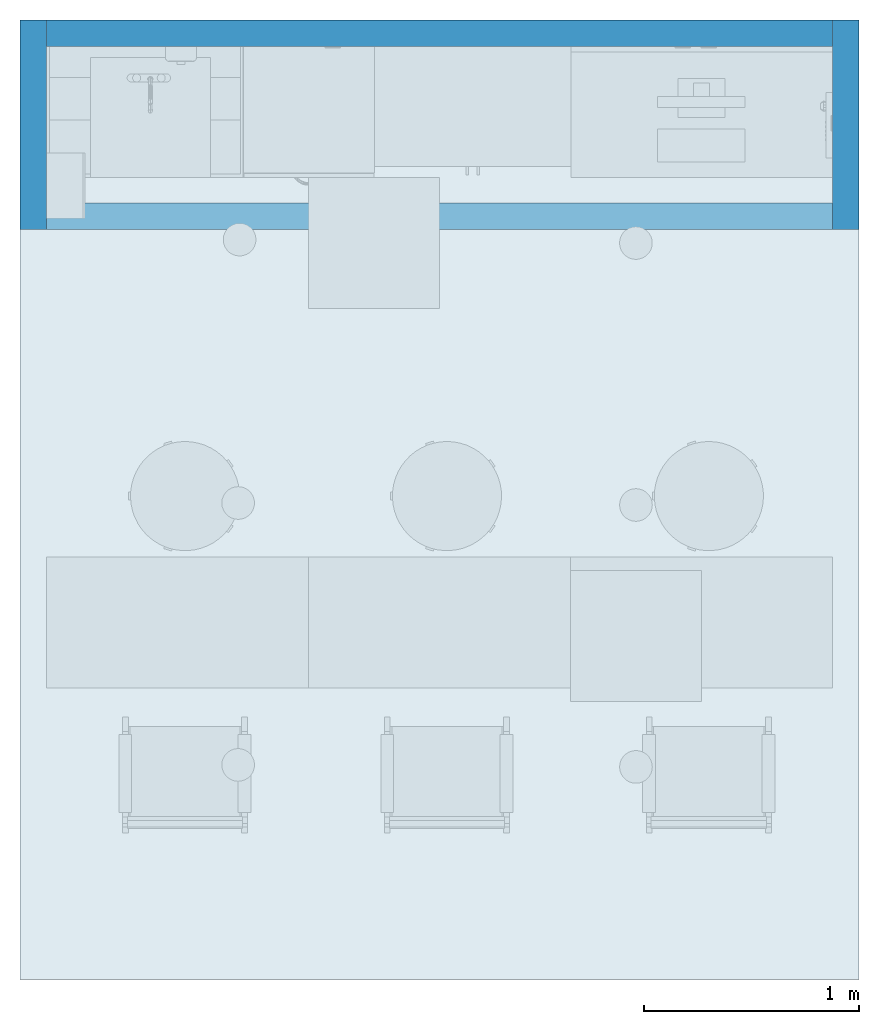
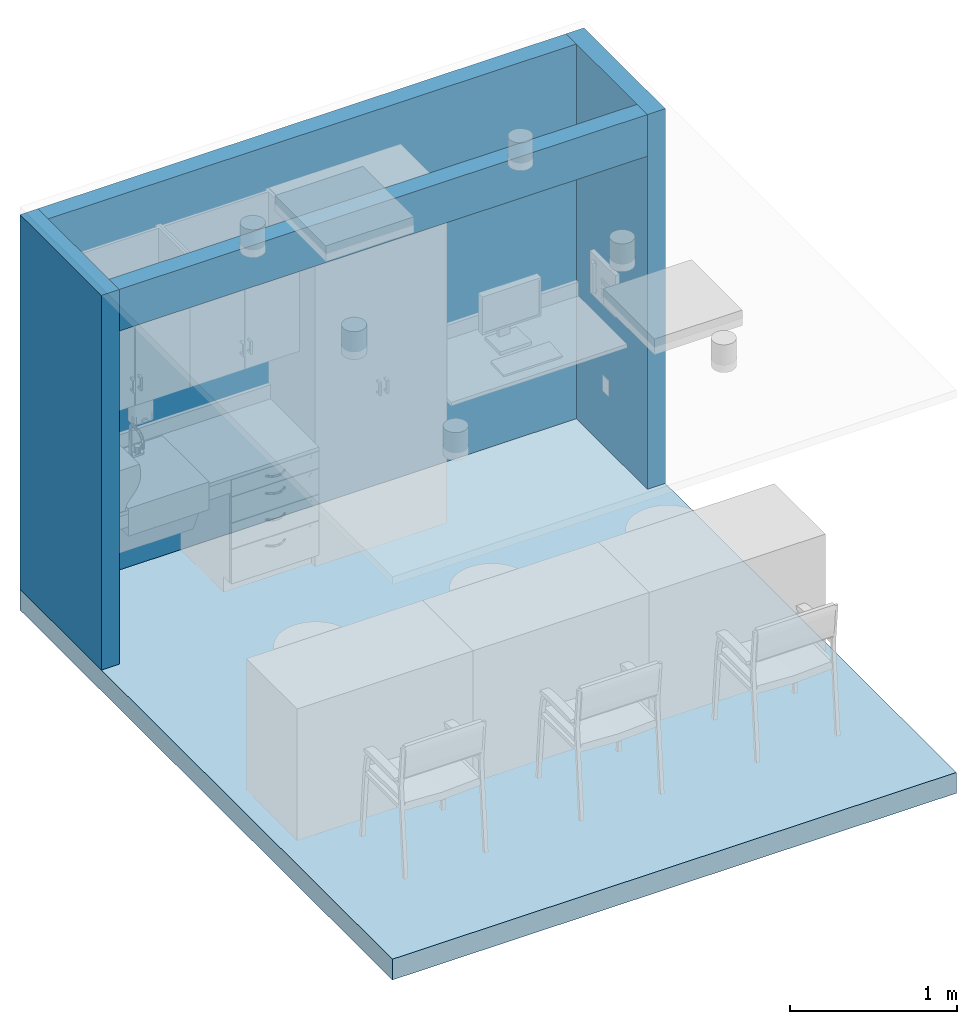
# One storey, part 1 of 8: 4 walls, 1 slab.
"""IFC2X3 building model written with IfcOpenShell, lengths in feet."""

from ifc_helpers import new_model, entity, si_unit, converted_unit, derived_unit, direction, frame, frame_2d, origin, place, context, subcontext, project, spatial, rectangle, extrude, material, layer, layer_set, layer_usage, type_object, element, save


model = new_model("IFC2X3")

# Units and contexts
model_context = context("Model", 3, precision=0.0001, world=origin(), true_north=direction((6.12303176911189e-17, 1.0)))
body_context = subcontext(model_context, "Body", "Model", "MODEL_VIEW")
ifc_project = project(units=[converted_unit("LENGTHUNIT", "FOOT", entity("IfcRatioMeasure", 0.3048), si_unit("LENGTHUNIT", "METRE"), dimensions=[1, 0, 0, 0, 0, 0, 0]), converted_unit("AREAUNIT", "SQUARE FOOT", entity("IfcRatioMeasure", 0.09290304), si_unit("AREAUNIT", "SQUARE_METRE"), dimensions=[2, 0, 0, 0, 0, 0, 0]), converted_unit("VOLUMEUNIT", "CUBIC FOOT", entity("IfcRatioMeasure", 0.028316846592), si_unit("VOLUMEUNIT", "CUBIC_METRE"), dimensions=[3, 0, 0, 0, 0, 0, 0]), converted_unit("PLANEANGLEUNIT", "DEGREE", entity("IfcRatioMeasure", 0.0174532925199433), si_unit("PLANEANGLEUNIT", "RADIAN"), dimensions=[0, 0, 0, 0, 0, 0, 0]), si_unit("MASSUNIT", "GRAM", prefix="KILO"), derived_unit("MASSDENSITYUNIT", [(si_unit("MASSUNIT", "GRAM", prefix="KILO"), 1), (si_unit("LENGTHUNIT", "METRE"), -3)]), si_unit("TIMEUNIT", "SECOND"), si_unit("FREQUENCYUNIT", "HERTZ"), si_unit("THERMODYNAMICTEMPERATUREUNIT", "DEGREE_CELSIUS"), derived_unit("THERMALTRANSMITTANCEUNIT", [(si_unit("MASSUNIT", "GRAM", prefix="KILO"), 1), (si_unit("THERMODYNAMICTEMPERATUREUNIT", "KELVIN"), -1), (si_unit("TIMEUNIT", "SECOND"), -3)]), derived_unit("VOLUMETRICFLOWRATEUNIT", [(si_unit("LENGTHUNIT", "METRE"), 3), (si_unit("TIMEUNIT", "SECOND"), -1)]), si_unit("ELECTRICCURRENTUNIT", "AMPERE"), si_unit("ELECTRICVOLTAGEUNIT", "VOLT"), si_unit("POWERUNIT", "WATT"), si_unit("FORCEUNIT", "NEWTON"), si_unit("ILLUMINANCEUNIT", "LUX"), si_unit("LUMINOUSFLUXUNIT", "LUMEN"), si_unit("LUMINOUSINTENSITYUNIT", "CANDELA"), derived_unit("USERDEFINED", [(si_unit("MASSUNIT", "GRAM", prefix="KILO"), -1), (si_unit("LENGTHUNIT", "METRE"), -2), (si_unit("TIMEUNIT", "SECOND"), 3), (si_unit("LUMINOUSFLUXUNIT", "LUMEN"), 1)]), derived_unit("LINEARVELOCITYUNIT", [(si_unit("LENGTHUNIT", "METRE"), 1), (si_unit("TIMEUNIT", "SECOND"), -1)]), si_unit("PRESSUREUNIT", "PASCAL"), derived_unit("USERDEFINED", [(si_unit("LENGTHUNIT", "METRE"), -2), (si_unit("MASSUNIT", "GRAM", prefix="KILO"), 1), (si_unit("TIMEUNIT", "SECOND"), -2)])], contexts=[model_context])

# Site, building, storey
site_placement = place(None, origin())
site = spatial("IfcSite", under=ifc_project, at=site_placement, Name="Default", CompositionType="ELEMENT")
building_placement = place(site_placement, origin())
building = spatial("IfcBuilding", under=site, at=building_placement, Name="EYE CLINIC:  OPTHALMOLOGY AND OPTOMETRY SERVICES (Ch. 233)", CompositionType="ELEMENT")
storey_placement = place(building_placement, origin())
storey = spatial("IfcBuildingStorey", under=building, at=storey_placement, Name="DATUM", CompositionType="ELEMENT", Elevation=0.0)

# Slab
ifc_material_1 = material(Name="Default Floor")
ifc_layer_1 = layer(ifc_material_1, 0.5)
ifc_layer_set_1 = layer_set([ifc_layer_1], Name="Floor:Generic - 6\"")
ifc_layer_usage_1 = layer_usage(ifc_layer_set_1, "AXIS3", "POSITIVE", 0.0)
slab_placement = place(storey_placement, origin())
element("IfcSlab", 1, at=slab_placement, inside=storey, material=ifc_layer_usage_1, Name="Floor:Generic - 6\"", ObjectType="Floor:Generic - 6\"", PredefinedType="FLOOR", context=body_context, shape_type="SweptSolid", body=[
    extrude(rectangle(XDim=14.65625, YDim=12.8124999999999, at=frame_2d((0.0, -2.8421709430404e-14), x_axis=(1.0, 0.0))), frame((385.563539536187, 4.80741126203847, 0.0), z_axis=(0.0, 0.0, -1.0), x_axis=(0.0, 1.0, 0.0)), (0.0, 0.0, 1.0), 0.5),
])

# Walls
ifc_material_2 = material(Name="Default Wall")
ifc_layer_2 = layer(ifc_material_2, 0.40625)
ifc_layer_set_2 = layer_set([ifc_layer_2], Name="Basic Wall:Interior - 4 7/8\"")
ifc_layer_usage_2 = layer_usage(ifc_layer_set_2, "AXIS2", "NEGATIVE", 0.203125)
wall_type_1 = type_object("IfcWallType", Name="Basic Wall:Interior - 4 7/8\"", PredefinedType="STANDARD", material=ifc_layer_set_2)
wall_1_placement = place(storey_placement, frame((391.766664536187, 12.1355362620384, 0.0), z_axis=(0.0, 0.0, 1.0), x_axis=(0.0, -1.0, 0.0)))
element("IfcWallStandardCase", 2, at=wall_1_placement, inside=storey, type_object=wall_type_1, material=ifc_layer_usage_2, Name="Basic Wall:Interior - 4 7/8\"", ObjectType="Basic Wall:Interior - 4 7/8\"", context=body_context, shape_type="SweptSolid", body=[
    extrude(rectangle(XDim=3.20312500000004, YDim=0.40625, at=frame_2d((1.60156250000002, 2.56739074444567e-15), x_axis=(-1.0, 0.0))), origin(), (0.0, 0.0, 1.0), 9.0),
])
ifc_layer_usage_3 = layer_usage(ifc_layer_set_2, "AXIS2", "POSITIVE", -0.203125)
wall_2_placement = place(storey_placement, frame((391.563539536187, 11.9324112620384, 0.0), z_axis=(0.0, 0.0, 1.0), x_axis=(-1.0, 0.0, 0.0)))
element("IfcWallStandardCase", 3, at=wall_2_placement, inside=storey, type_object=wall_type_1, material=ifc_layer_usage_3, Name="Basic Wall:Interior - 4 7/8\"", ObjectType="Basic Wall:Interior - 4 7/8\"", context=body_context, shape_type="SweptSolid", body=[
    extrude(rectangle(XDim=12.0, YDim=0.40625, at=frame_2d((6.0, -2.77555756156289e-17), x_axis=(-1.0, 0.0))), origin(), (0.0, 0.0, 1.0), 9.0),
])
ifc_layer_usage_4 = layer_usage(ifc_layer_set_2, "AXIS2", "POSITIVE", -0.203125)
wall_3_placement = place(storey_placement, frame((379.360414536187, 12.1355362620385, 0.0), z_axis=(0.0, 0.0, 1.0), x_axis=(0.0, -1.0, 0.0)))
element("IfcWallStandardCase", 4, at=wall_3_placement, inside=storey, type_object=wall_type_1, material=ifc_layer_usage_4, Name="Basic Wall:Interior - 4 7/8\"", ObjectType="Basic Wall:Interior - 4 7/8\"", context=body_context, shape_type="SweptSolid", body=[
    extrude(rectangle(XDim=3.20312500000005, YDim=0.40625, at=frame_2d((1.60156250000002, 2.56739074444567e-15), x_axis=(-1.0, 0.0))), origin(), (0.0, 0.0, 1.0), 9.0),
])
ifc_layer_3 = layer(ifc_material_2, 0.40625)
ifc_layer_set_3 = layer_set([ifc_layer_3], Name="Basic Wall:Interior - 4 7/8\" Bulkhead")
ifc_layer_usage_5 = layer_usage(ifc_layer_set_3, "AXIS2", "NEGATIVE", 0.203125)
wall_type_2 = type_object("IfcWallType", Name="Basic Wall:Interior - 4 7/8\" Bulkhead", PredefinedType="STANDARD", material=ifc_layer_set_3)
wall_4_placement = place(storey_placement, frame((391.563539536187, 9.13553626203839, 8.0), z_axis=(0.0, 0.0, 1.0), x_axis=(-1.0, 0.0, 0.0)))
element("IfcWallStandardCase", 5, at=wall_4_placement, inside=storey, type_object=wall_type_2, material=ifc_layer_usage_5, Name="Basic Wall:Interior - 4 7/8\" Bulkhead", ObjectType="Basic Wall:Interior - 4 7/8\" Bulkhead", context=body_context, shape_type="SweptSolid", body=[
    extrude(rectangle(XDim=12.0, YDim=0.40625, at=frame_2d((6.0, 0.0), x_axis=(-1.0, 0.0))), origin(), (0.0, 0.0, 1.0), 1.0),
])

save(model, "model.ifc")
